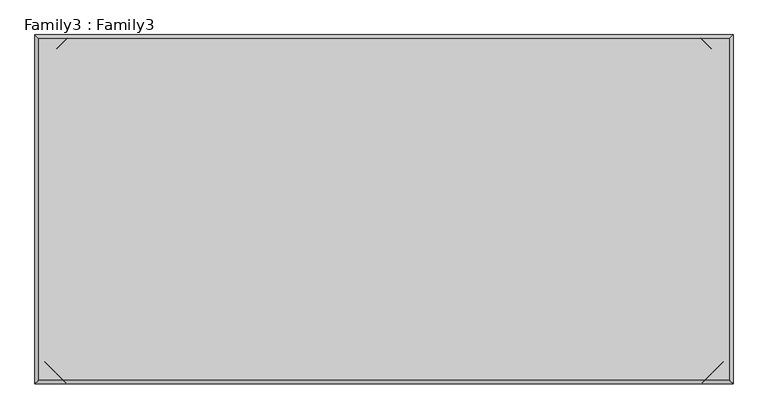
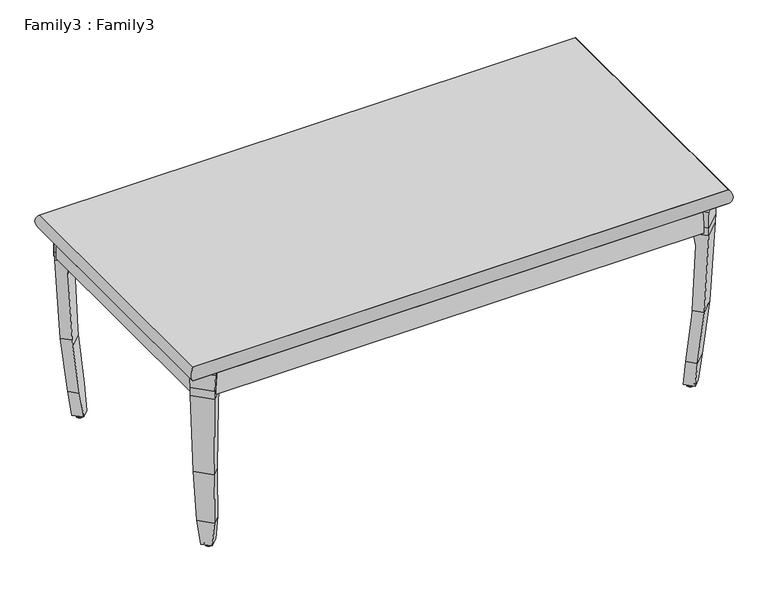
"""IFC4 building model written with IfcOpenShell, lengths in millimetres: furniture geometry, Family3 : Family3."""

from ifc_helpers import new_model, si_unit, point, frame, origin, place, context, project, spatial, polyline, circle_curve, ellipse_curve, trimmed, outline, extrude, faceted_brep, source, transform, mapped, element, save
from ifc_brep_helpers import plane_surface, cylinder_surface, revolved_surface, advanced_brep


def family3_family3_a00ddc4d(model_context):
    return source(origin(), model_context, "Body", "SolidModel", [
        advanced_brep(
        [(-475.4329187, -223.1330941, 6.0), (-481.0897727, -228.7899481, 6.0), (-469.7760646, -217.4762401, 6.0), (-479.4936913, -227.1938667, 0.0), (-475.4329187, -223.1330941, 0.0), (-471.372146, -219.0723215, 0.0), (-480.5047793, -228.2049547, 1.2429883), (-470.361058, -218.0612334, 1.2429883)],
        [
            (0, 1),
            (1, 2, circle_curve(frame((-475.4329187, -223.1330941, 6.0), z_axis=(0.0, 0.0, 1.0), x_axis=(0.7071067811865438, 0.7071067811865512, 0.0)), 7.9999997)),
            (2, 0),
            (2, 1, circle_curve(frame((-475.4329187, -223.1330941, 6.0), z_axis=(0.0, 0.0, 1.0), x_axis=(0.7071067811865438, 0.7071067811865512, 0.0)), 7.9999997)),
            (3, 4),
            (4, 5),
            (5, 3, circle_curve(frame((-475.4329187, -223.1330941, 0.0), z_axis=(0.0, 0.0, -1.0), x_axis=(0.7071067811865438, 0.7071067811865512, 0.0)), 5.7427997)),
            (3, 5, circle_curve(frame((-475.4329187, -223.1330941, 0.0), z_axis=(0.0, 0.0, -1.0), x_axis=(0.7071067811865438, 0.7071067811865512, 0.0)), 5.7427997)),
            (6, 3, circle_curve(frame((-478.7906755, -226.4908509, 2.5876597), z_axis=(0.7071067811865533, -0.7071067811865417, 0.0), x_axis=(-0.7071067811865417, -0.7071067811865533, 0.0)), 2.7720832)),
            (5, 7, circle_curve(frame((-472.0751618, -219.7753373, 2.5876597), z_axis=(0.7071067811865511, -0.7071067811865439, 0.0), x_axis=(0.7071067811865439, 0.7071067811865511, 0.0)), 2.7720832)),
            (7, 6, circle_curve(frame((-475.4329187, -223.1330941, 1.2429883), z_axis=(0.0, 0.0, -1.0), x_axis=(0.7071067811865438, 0.7071067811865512, 0.0)), 7.1726941)),
            (6, 7, circle_curve(frame((-475.4329187, -223.1330941, 1.2429883), z_axis=(0.0, 0.0, -1.0), x_axis=(0.7071067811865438, 0.7071067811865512, 0.0)), 7.1726941)),
            (1, 6),
            (7, 2),
        ],
        [
            plane_surface(frame((-475.4329187, -223.1330941, 6.0), z_axis=(0.0, 0.0, 1.0), x_axis=(0.7071067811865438, 0.7071067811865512, 0.0))),
            plane_surface(frame((-475.4329187, -223.1330941, 0.0), z_axis=(0.0, 0.0, -1.0), x_axis=(0.7071067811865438, 0.7071067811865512, 0.0))),
            revolved_surface(trimmed(ellipse_curve(frame((-472.0751618, -219.7753373, 2.5876597), z_axis=(0.7071067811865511, -0.7071067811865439, 0.0), x_axis=(0.7071067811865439, 0.7071067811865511, 0.0)), 2.7720832, 2.7720832), [point((-471.372146, -219.0723215, 0.0))], [point((-470.361058, -218.0612334, 1.2429883))], True, "CARTESIAN"), (-475.4329187, -223.1330941, 6.0), (0.0, 0.0, 1.0)),
            revolved_surface(polyline([(-470.361058, -218.0612334, 1.2429883), (-469.7760646, -217.4762401, 6.0)]), (-475.4329187, -223.1330941, 6.0), (0.0, 0.0, 1.0)),
        ],
        [
            (0, [[1, 2, 3]]),
            (0, [[-3, 4, -1]]),
            (1, [[5, 6, 7]]),
            (1, [[-6, -5, 8]]),
            (2, [[9, -7, 10, 11]]),
            (2, [[-10, -8, -9, 12]]),
            (3, [[13, -11, 14, -2]]),
            (3, [[-14, -12, -13, -4]]),
        ],
    ),
        faceted_brep([(-493.6528057, -215.7886424, 156.4272796), (-494.312944, -215.9879002, 168.9577284), (-501.1029436, -218.7304756, 307.9477003), (-471.0303002, -248.803119, 307.9477003), (-468.2877248, -242.0131195, 168.9577284), (-468.088467, -241.3529811, 156.4272796), (-498.6861918, -215.5841948, 332.9999866), (-467.8858912, -246.3844955, 332.9999866), (-498.6843155, -215.5860711, 349.5791345), (-499.8597934, -214.4105933, 382.9999869), (-466.7104178, -247.5599688, 382.9999869), (-467.8858957, -246.384491, 349.5791345), (-519.4613222, -234.0121221, 382.9999869), (-486.3119466, -267.1614977, 382.9999869), (-518.3683294, -235.2700849, 349.5791345), (-487.5699095, -266.0685048, 349.5791345), (-518.097125, -234.9988715, 332.8714334), (-487.298696, -265.7973004, 332.8714334), (-509.5267179, -231.2016741, 168.9577284), (-483.5014986, -257.2268933, 168.9577284), (-498.4213002, -224.1700357, 58.1995499), (-476.4698603, -246.1214756, 58.1995499), (-490.5404222, -223.8802278, 6.0), (-476.1800524, -238.2405976, 6.0), (-475.5420326, -208.8818382, 6.0), (-461.1816628, -223.2422081, 6.0), (-461.7267842, -231.3783995, 58.1995499), (-483.6782241, -209.4269596, 58.1995499)], [[[0, 1, 2, 3, 4, 5]], [[2, 6, 7, 3]], [[6, 8, 9, 10, 11, 7]], [[9, 12, 13, 10]], [[12, 14, 15, 13]], [[14, 16, 17, 15]], [[16, 18, 19, 17]], [[18, 20, 21, 19]], [[20, 22, 23, 21]], [[22, 24, 25, 23]], [[5, 26, 25, 24, 27, 0]], [[27, 24, 22, 20]], [[20, 18, 1, 0, 27]], [[6, 2, 1, 18, 16]], [[16, 14, 8, 6]], [[14, 12, 9, 8]], [[11, 10, 13, 15]], [[7, 11, 15, 17]], [[17, 19, 4, 3, 7]], [[19, 21, 26, 5, 4]], [[21, 23, 25, 26]]]),
        advanced_brep(
        [(475.4329187, -223.1330941, 6.0), (469.7760646, -217.4762401, 6.0), (481.0897727, -228.7899481, 6.0), (479.4936913, -227.1938667, 0.0), (471.372146, -219.0723215, 0.0), (475.4329187, -223.1330941, 0.0), (480.5047793, -228.2049547, 1.2429883), (470.361058, -218.0612334, 1.2429883)],
        [
            (0, 1),
            (1, 2, circle_curve(frame((475.4329187, -223.1330941, 6.0), z_axis=(0.0, 0.0, 1.0), x_axis=(-0.7071067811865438, 0.7071067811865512, 0.0)), 7.9999997)),
            (2, 0),
            (2, 1, circle_curve(frame((475.4329187, -223.1330941, 6.0), z_axis=(0.0, 0.0, 1.0), x_axis=(-0.7071067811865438, 0.7071067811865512, 0.0)), 7.9999997)),
            (3, 4, circle_curve(frame((475.4329187, -223.1330941, 0.0), z_axis=(0.0, 0.0, -1.0), x_axis=(-0.7071067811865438, 0.7071067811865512, 0.0)), 5.7427997)),
            (4, 5),
            (5, 3),
            (4, 3, circle_curve(frame((475.4329187, -223.1330941, 0.0), z_axis=(0.0, 0.0, -1.0), x_axis=(-0.7071067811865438, 0.7071067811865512, 0.0)), 5.7427997)),
            (6, 7, circle_curve(frame((475.4329187, -223.1330941, 1.2429883), z_axis=(0.0, 0.0, -1.0), x_axis=(-0.7071067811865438, 0.7071067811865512, 0.0)), 7.1726941)),
            (7, 4, circle_curve(frame((472.0751618, -219.7753373, 2.5876597), z_axis=(-0.7071067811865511, -0.7071067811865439, 0.0), x_axis=(-0.7071067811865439, 0.7071067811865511, 0.0)), 2.7720832)),
            (3, 6, circle_curve(frame((478.7906755, -226.4908509, 2.5876597), z_axis=(-0.7071067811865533, -0.7071067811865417, 0.0), x_axis=(0.7071067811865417, -0.7071067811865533, 0.0)), 2.7720832)),
            (7, 6, circle_curve(frame((475.4329187, -223.1330941, 1.2429883), z_axis=(0.0, 0.0, -1.0), x_axis=(-0.7071067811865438, 0.7071067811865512, 0.0)), 7.1726941)),
            (1, 7),
            (6, 2),
        ],
        [
            plane_surface(frame((475.4329187, -223.1330941, 6.0), z_axis=(0.0, 0.0, 1.0), x_axis=(-0.7071067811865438, 0.7071067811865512, 0.0))),
            plane_surface(frame((475.4329187, -223.1330941, 0.0), z_axis=(0.0, 0.0, -1.0), x_axis=(-0.7071067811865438, 0.7071067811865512, 0.0))),
            revolved_surface(trimmed(ellipse_curve(frame((472.0751618, -219.7753373, 2.5876597), z_axis=(0.7071067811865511, 0.7071067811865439, 0.0), x_axis=(-0.7071067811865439, 0.7071067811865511, 0.0)), 2.7720832, 2.7720832), [point((471.372146, -219.0723215, 0.0))], [point((470.361058, -218.0612334, 1.2429883))], True, "CARTESIAN"), (475.4329187, -223.1330941, 6.0), (0.0, 0.0, 1.0)),
            revolved_surface(polyline([(470.361058, -218.0612334, 1.2429883), (469.7760646, -217.4762401, 6.0)]), (475.4329187, -223.1330941, 6.0), (0.0, 0.0, 1.0)),
        ],
        [
            (0, [[1, 2, 3]]),
            (0, [[-3, 4, -1]]),
            (1, [[5, 6, 7]]),
            (1, [[8, -7, -6]]),
            (2, [[9, 10, -5, 11]]),
            (2, [[12, -11, -8, -10]]),
            (3, [[-2, 13, -9, 14]]),
            (3, [[-4, -14, -12, -13]]),
        ],
    ),
        faceted_brep([(493.6528057, -215.7886424, 156.4272796), (468.088467, -241.3529811, 156.4272796), (468.2877248, -242.0131195, 168.9577284), (471.0303002, -248.803119, 307.9477003), (501.1029436, -218.7304756, 307.9477003), (494.312944, -215.9879002, 168.9577284), (467.884026, -246.3863724, 332.9999334), (498.6861918, -215.5841948, 332.9999866), (467.8858957, -246.384491, 349.5791345), (466.7104178, -247.5599688, 382.9999869), (499.8597934, -214.4105933, 382.9999869), (498.6843155, -215.5860711, 349.5791345), (486.3119466, -267.1614977, 382.9999869), (519.4613222, -234.0121221, 382.9999869), (487.5699095, -266.0685048, 349.5791345), (518.3683294, -235.2700849, 349.5791345), (487.298696, -265.7973004, 332.8714334), (518.097125, -234.9988715, 332.8714334), (483.5014986, -257.2268933, 168.9577284), (509.5267179, -231.2016741, 168.9577284), (476.4698603, -246.1214756, 58.1995499), (498.4213002, -224.1700357, 58.1995499), (476.1800524, -238.2405976, 6.0), (490.5404222, -223.8802278, 6.0), (461.1816628, -223.2422081, 6.0), (475.5420326, -208.8818382, 6.0), (483.6782241, -209.4269596, 58.1995499), (461.7267842, -231.3783995, 58.1995499)], [[[0, 1, 2, 3, 4, 5]], [[4, 3, 6, 7]], [[7, 6, 8, 9, 10, 11]], [[10, 9, 12, 13]], [[13, 12, 14, 15]], [[15, 14, 16, 17]], [[17, 16, 18, 19]], [[19, 18, 20, 21]], [[21, 20, 22, 23]], [[23, 22, 24, 25]], [[1, 0, 26, 25, 24, 27]], [[26, 21, 23, 25]], [[21, 26, 0, 5, 19]], [[7, 17, 19, 5, 4]], [[17, 7, 11, 15]], [[15, 11, 10, 13]], [[8, 14, 12, 9]], [[6, 16, 14, 8]], [[16, 6, 3, 2, 18]], [[18, 2, 1, 27, 20]], [[20, 27, 24, 22]]]),
        advanced_brep(
        [(474.3803117, 218.4710247, 6.0), (480.0371657, 224.1278787, 6.0), (468.7234577, 212.8141707, 6.0), (478.4410843, 222.5317973, 0.0), (474.3803117, 218.4710247, 0.0), (470.3195391, 214.4102521, 0.0), (479.4521723, 223.5428854, 1.2429883), (469.308451, 213.399164, 1.2429883)],
        [
            (0, 1),
            (1, 2, circle_curve(frame((474.3803117, 218.4710247, 6.0), z_axis=(0.0, 0.0, 1.0), x_axis=(-0.7071067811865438, -0.7071067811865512, 0.0)), 7.9999997)),
            (2, 0),
            (2, 1, circle_curve(frame((474.3803117, 218.4710247, 6.0), z_axis=(0.0, 0.0, 1.0), x_axis=(-0.7071067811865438, -0.7071067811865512, 0.0)), 7.9999997)),
            (3, 4),
            (4, 5),
            (5, 3, circle_curve(frame((474.3803117, 218.4710247, 0.0), z_axis=(0.0, 0.0, -1.0), x_axis=(-0.7071067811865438, -0.7071067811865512, 0.0)), 5.7427997)),
            (3, 5, circle_curve(frame((474.3803117, 218.4710247, 0.0), z_axis=(0.0, 0.0, -1.0), x_axis=(-0.7071067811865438, -0.7071067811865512, 0.0)), 5.7427997)),
            (6, 3, circle_curve(frame((477.7380685, 221.8287815, 2.5876597), z_axis=(-0.7071067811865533, 0.7071067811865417, 0.0), x_axis=(0.7071067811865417, 0.7071067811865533, 0.0)), 2.7720832)),
            (5, 7, circle_curve(frame((471.0225549, 215.1132679, 2.5876597), z_axis=(-0.7071067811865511, 0.7071067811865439, 0.0), x_axis=(-0.7071067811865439, -0.7071067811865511, 0.0)), 2.7720832)),
            (7, 6, circle_curve(frame((474.3803117, 218.4710247, 1.2429883), z_axis=(0.0, 0.0, -1.0), x_axis=(-0.7071067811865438, -0.7071067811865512, 0.0)), 7.1726941)),
            (6, 7, circle_curve(frame((474.3803117, 218.4710247, 1.2429883), z_axis=(0.0, 0.0, -1.0), x_axis=(-0.7071067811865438, -0.7071067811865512, 0.0)), 7.1726941)),
            (1, 6),
            (7, 2),
        ],
        [
            plane_surface(frame((474.3803117, 218.4710247, 6.0), z_axis=(0.0, 0.0, 1.0), x_axis=(-0.7071067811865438, -0.7071067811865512, 0.0))),
            plane_surface(frame((474.3803117, 218.4710247, 0.0), z_axis=(0.0, 0.0, -1.0), x_axis=(-0.7071067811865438, -0.7071067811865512, 0.0))),
            revolved_surface(trimmed(ellipse_curve(frame((471.0225549, 215.1132679, 2.5876597), z_axis=(-0.7071067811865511, 0.7071067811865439, 0.0), x_axis=(-0.7071067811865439, -0.7071067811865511, 0.0)), 2.7720832, 2.7720832), [point((470.3195391, 214.4102521, 0.0))], [point((469.308451, 213.399164, 1.2429883))], True, "CARTESIAN"), (474.3803117, 218.4710247, 6.0), (0.0, 0.0, 1.0)),
            revolved_surface(polyline([(469.308451, 213.399164, 1.2429883), (468.7234577, 212.8141707, 6.0)]), (474.3803117, 218.4710247, 6.0), (0.0, 0.0, 1.0)),
        ],
        [
            (0, [[1, 2, 3]]),
            (0, [[-3, 4, -1]]),
            (1, [[5, 6, 7]]),
            (1, [[-6, -5, 8]]),
            (2, [[9, -7, 10, 11]]),
            (2, [[-10, -8, -9, 12]]),
            (3, [[13, -11, 14, -2]]),
            (3, [[-14, -12, -13, -4]]),
        ],
    ),
        faceted_brep([(492.6001987, 211.126573, 156.4272796), (493.260337, 211.3258308, 168.9577284), (500.0503366, 214.0684062, 307.9477003), (469.9776932, 244.1410496, 307.9477003), (467.2351178, 237.3510501, 168.9577284), (467.03586, 236.6909118, 156.4272796), (497.6335849, 210.9221254, 332.9999866), (466.8332842, 241.7224261, 332.9999866), (497.6317086, 210.9240017, 349.5791345), (498.8071864, 209.7485239, 382.9999869), (465.6578108, 242.8978994, 382.9999869), (466.8332887, 241.7224216, 349.5791345), (518.4087153, 229.3500527, 382.9999869), (485.2593397, 262.4994283, 382.9999869), (517.3157224, 230.6080155, 349.5791345), (486.5173025, 261.4064354, 349.5791345), (517.044518, 230.3368021, 332.8714334), (486.246089, 261.135231, 332.8714334), (508.4741109, 226.5396047, 168.9577284), (482.4488917, 252.5648239, 168.9577284), (497.3686932, 219.5079663, 58.1995499), (475.4172533, 241.4594062, 58.1995499), (489.4878152, 219.2181584, 6.0), (475.1274454, 233.5785282, 6.0), (474.4894257, 204.2197689, 6.0), (460.1290558, 218.5801387, 6.0), (460.6741772, 226.7163301, 58.1995499), (482.6256171, 204.7648902, 58.1995499)], [[[0, 1, 2, 3, 4, 5]], [[2, 6, 7, 3]], [[6, 8, 9, 10, 11, 7]], [[9, 12, 13, 10]], [[12, 14, 15, 13]], [[14, 16, 17, 15]], [[16, 18, 19, 17]], [[18, 20, 21, 19]], [[20, 22, 23, 21]], [[22, 24, 25, 23]], [[5, 26, 25, 24, 27, 0]], [[27, 24, 22, 20]], [[20, 18, 1, 0, 27]], [[6, 2, 1, 18, 16]], [[16, 14, 8, 6]], [[14, 12, 9, 8]], [[11, 10, 13, 15]], [[7, 11, 15, 17]], [[17, 19, 4, 3, 7]], [[19, 21, 26, 5, 4]], [[21, 23, 25, 26]]]),
        advanced_brep(
        [(-474.3803117, 218.4710247, 6.0), (-468.7234577, 212.8141707, 6.0), (-480.0371657, 224.1278787, 6.0), (-478.4410843, 222.5317973, 0.0), (-470.3195391, 214.4102521, 0.0), (-474.3803117, 218.4710247, 0.0), (-479.4521723, 223.5428854, 1.2429883), (-469.308451, 213.399164, 1.2429883)],
        [
            (0, 1),
            (1, 2, circle_curve(frame((-474.3803117, 218.4710247, 6.0), z_axis=(0.0, 0.0, 1.0), x_axis=(0.7071067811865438, -0.7071067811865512, 0.0)), 7.9999997)),
            (2, 0),
            (2, 1, circle_curve(frame((-474.3803117, 218.4710247, 6.0), z_axis=(0.0, 0.0, 1.0), x_axis=(0.7071067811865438, -0.7071067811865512, 0.0)), 7.9999997)),
            (3, 4, circle_curve(frame((-474.3803117, 218.4710247, 0.0), z_axis=(0.0, 0.0, -1.0), x_axis=(0.7071067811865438, -0.7071067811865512, 0.0)), 5.7427997)),
            (4, 5),
            (5, 3),
            (4, 3, circle_curve(frame((-474.3803117, 218.4710247, 0.0), z_axis=(0.0, 0.0, -1.0), x_axis=(0.7071067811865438, -0.7071067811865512, 0.0)), 5.7427997)),
            (6, 7, circle_curve(frame((-474.3803117, 218.4710247, 1.2429883), z_axis=(0.0, 0.0, -1.0), x_axis=(0.7071067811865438, -0.7071067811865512, 0.0)), 7.1726941)),
            (7, 4, circle_curve(frame((-471.0225549, 215.1132679, 2.5876597), z_axis=(0.7071067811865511, 0.7071067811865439, 0.0), x_axis=(0.7071067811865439, -0.7071067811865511, 0.0)), 2.7720832)),
            (3, 6, circle_curve(frame((-477.7380685, 221.8287815, 2.5876597), z_axis=(0.7071067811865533, 0.7071067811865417, 0.0), x_axis=(-0.7071067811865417, 0.7071067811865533, 0.0)), 2.7720832)),
            (7, 6, circle_curve(frame((-474.3803117, 218.4710247, 1.2429883), z_axis=(0.0, 0.0, -1.0), x_axis=(0.7071067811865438, -0.7071067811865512, 0.0)), 7.1726941)),
            (1, 7),
            (6, 2),
        ],
        [
            plane_surface(frame((-474.3803117, 218.4710247, 6.0), z_axis=(0.0, 0.0, 1.0), x_axis=(0.7071067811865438, -0.7071067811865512, 0.0))),
            plane_surface(frame((-474.3803117, 218.4710247, 0.0), z_axis=(0.0, 0.0, -1.0), x_axis=(0.7071067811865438, -0.7071067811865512, 0.0))),
            revolved_surface(trimmed(ellipse_curve(frame((-471.0225549, 215.1132679, 2.5876597), z_axis=(-0.7071067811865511, -0.7071067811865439, 0.0), x_axis=(0.7071067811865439, -0.7071067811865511, 0.0)), 2.7720832, 2.7720832), [point((-470.3195391, 214.4102521, 0.0))], [point((-469.308451, 213.399164, 1.2429883))], True, "CARTESIAN"), (-474.3803117, 218.4710247, 6.0), (0.0, 0.0, 1.0)),
            revolved_surface(polyline([(-469.308451, 213.399164, 1.2429883), (-468.7234577, 212.8141707, 6.0)]), (-474.3803117, 218.4710247, 6.0), (0.0, 0.0, 1.0)),
        ],
        [
            (0, [[1, 2, 3]]),
            (0, [[-3, 4, -1]]),
            (1, [[5, 6, 7]]),
            (1, [[8, -7, -6]]),
            (2, [[9, 10, -5, 11]]),
            (2, [[12, -11, -8, -10]]),
            (3, [[-2, 13, -9, 14]]),
            (3, [[-4, -14, -12, -13]]),
        ],
    ),
        faceted_brep([(-492.6001987, 211.126573, 156.4272796), (-467.03586, 236.6909118, 156.4272796), (-467.2351178, 237.3510501, 168.9577284), (-469.9776932, 244.1410496, 307.9477003), (-500.0503366, 214.0684062, 307.9477003), (-493.260337, 211.3258308, 168.9577284), (-466.8314191, 241.724303, 332.9999334), (-497.6335849, 210.9221254, 332.9999866), (-466.8332887, 241.7224216, 349.5791345), (-465.6578108, 242.8978994, 382.9999869), (-498.8071864, 209.7485239, 382.9999869), (-497.6317086, 210.9240017, 349.5791345), (-485.2593397, 262.4994283, 382.9999869), (-518.4087153, 229.3500527, 382.9999869), (-486.5173025, 261.4064354, 349.5791345), (-517.3157224, 230.6080155, 349.5791345), (-486.246089, 261.135231, 332.8714334), (-517.044518, 230.3368021, 332.8714334), (-482.4488917, 252.5648239, 168.9577284), (-508.4741109, 226.5396047, 168.9577284), (-475.4172533, 241.4594062, 58.1995499), (-497.3686932, 219.5079663, 58.1995499), (-475.1274454, 233.5785282, 6.0), (-489.4878152, 219.2181584, 6.0), (-460.1290558, 218.5801387, 6.0), (-474.4894257, 204.2197689, 6.0), (-482.6256171, 204.7648902, 58.1995499), (-460.6741772, 226.7163301, 58.1995499)], [[[0, 1, 2, 3, 4, 5]], [[4, 3, 6, 7]], [[7, 6, 8, 9, 10, 11]], [[10, 9, 12, 13]], [[13, 12, 14, 15]], [[15, 14, 16, 17]], [[17, 16, 18, 19]], [[19, 18, 20, 21]], [[21, 20, 22, 23]], [[23, 22, 24, 25]], [[1, 0, 26, 25, 24, 27]], [[26, 21, 23, 25]], [[21, 26, 0, 5, 19]], [[7, 17, 19, 5, 4]], [[17, 7, 11, 15]], [[15, 11, 10, 13]], [[8, 14, 12, 9]], [[6, 16, 14, 8]], [[16, 6, 3, 2, 18]], [[18, 2, 1, 27, 20]], [[20, 27, 24, 22]]]),
        extrude(outline(polyline([(528.5146701, 261.4999665), (528.5146701, -261.5000028), (-528.5146911, -261.5000028), (-528.5146911, 261.4999665), (528.5146701, 261.4999665)])), frame((0.0, 0.0, 382.9999869), z_axis=(0.0, 0.0, 1.0), x_axis=(1.0, 0.0, 0.0)), (0.0, 0.0, 1.0), 29.5000162),
        advanced_brep(
        [(-528.5146911, -261.5000028, 412.5000031), (-528.5146911, -261.5000028, 382.9999869), (528.5146701, -261.5000028, 382.9999869), (528.5146701, -261.5000028, 412.5000031), (528.5146701, 261.4999665, 382.9999869), (528.5146701, 261.4999665, 412.5000031), (-528.5146911, 261.4999665, 382.9999869), (-528.5146911, 261.4999665, 412.5000031)],
        [
            (0, 1, ellipse_curve(frame((-513.0405097, -246.0258214, 397.749995), z_axis=(0.7071067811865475, -0.7071067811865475, 0.0), x_axis=(-0.7071067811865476, -0.7071067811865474, 0.0)), 30.2328639, 21.3778631)),
            (1, 2),
            (2, 3, ellipse_curve(frame((513.0404887, -246.0258214, 397.749995), z_axis=(-0.7071067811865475, -0.7071067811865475, 0.0), x_axis=(-0.7071067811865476, 0.7071067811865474, 0.0)), 30.2328639, 21.3778631)),
            (3, 0),
            (2, 4),
            (4, 5, ellipse_curve(frame((513.0404887, 246.0257851, 397.749995), z_axis=(0.7071067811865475, -0.7071067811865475, 0.0), x_axis=(-0.7071067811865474, -0.7071067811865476, 0.0)), 30.2328639, 21.3778631)),
            (5, 3),
            (4, 6),
            (6, 7, ellipse_curve(frame((-513.0405097, 246.0257851, 397.749995), z_axis=(0.7071067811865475, 0.7071067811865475, 0.0), x_axis=(0.7071067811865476, -0.7071067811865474, 0.0)), 30.2328639, 21.3778631)),
            (7, 5),
            (6, 1),
            (0, 7),
            (4, 5),
            (7, 6),
            (0, 1),
            (3, 2),
        ],
        [
            cylinder_surface(frame((-527.5000058, -246.0258214, 397.749995), z_axis=(-1.0, 0.0, 0.0), x_axis=(0.0, 1.0, 0.0)), 21.3778631),
            cylinder_surface(frame((513.0404887, -260.4853176, 397.749995), z_axis=(0.0, -1.0, 0.0), x_axis=(-1.0, 0.0, 0.0)), 21.3778631),
            cylinder_surface(frame((527.4999848, 246.0257851, 397.749995), z_axis=(1.0, 0.0, 0.0), x_axis=(0.0, -1.0, 0.0)), 21.3778631),
            cylinder_surface(frame((-513.0405097, 260.4852812, 397.749995), z_axis=(0.0, 1.0, 0.0), x_axis=(1.0, 0.0, 0.0)), 21.3778631),
            plane_surface(frame((528.5146701, 261.4999665, 412.5000031), z_axis=(0.0, -1.0, 0.0), x_axis=(-1.0, 0.0, 0.0))),
            plane_surface(frame((-528.5146911, 261.4999665, 412.5000031), z_axis=(1.0, 0.0, 0.0), x_axis=(0.0, -1.0, 0.0))),
            plane_surface(frame((-528.5146911, -261.5000028, 412.5000031), z_axis=(0.0, 1.0, 0.0), x_axis=(1.0, 0.0, 0.0))),
            plane_surface(frame((528.5146701, -261.5000028, 412.5000031), z_axis=(-1.0, 0.0, 0.0), x_axis=(0.0, 1.0, 0.0))),
        ],
        [
            (0, [[1, 2, 3, 4]]),
            (1, [[-3, 5, 6, 7]]),
            (2, [[-6, 8, 9, 10]]),
            (3, [[-9, 11, -1, 12]]),
            (4, [[13, -10, 14, -8]]),
            (5, [[-14, -12, 15, -11]]),
            (6, [[-15, -4, 16, -2]]),
            (7, [[-16, -7, -13, -5]]),
        ],
    ),
        extrude(outline(polyline([(-515.4852812, -235.8256062), (-515.4852812, 235.8256184), (-490.8256184, 260.4852812), (489.8256629, 260.4852812), (514.4853723, 235.8255719), (514.4853723, -235.8255582), (489.8256129, -260.4853176), (-490.8255698, -260.4853176), (-515.4852812, -235.8256062)]), holes=[polyline([(-496.9852817, -241.985284), (495.9853387, -241.985284), (495.9853387, 241.9852817), (-496.9852817, 241.9852817), (-496.9852817, -241.985284)])]), frame((0.0, 0.0, 338.0000084), z_axis=(0.0, 0.0, 1.0), x_axis=(1.0, 0.0, 0.0)), (0.0, 0.0, 1.0), 44.9999785),
    ])


if __name__ == "__main__":
    model = new_model("IFC4")
    model_context = context("Model", 3, world=origin())
    ifc_project = project(units=[si_unit("LENGTHUNIT", "METRE", prefix="MILLI")], contexts=[model_context])
    site = spatial("IfcSite", under=ifc_project)
    building = spatial("IfcBuilding", under=site)
    placement = place(None, origin())
    family3_family3_shape = family3_family3_a00ddc4d(model_context)
    element("IfcFurniture", 1, ObjectType="Family3 : Family3", at=placement, inside=building, context=model_context, shape_type="MappedRepresentation", body=[
        mapped(family3_family3_shape, transform((0.0, 0.0, 0.0), x_axis=(1.0, 0.0, 0.0), y_axis=(0.0, 1.0, 0.0), z_axis=(0.0, 0.0, 1.0))),
    ])
    save(model, "model.ifc")
